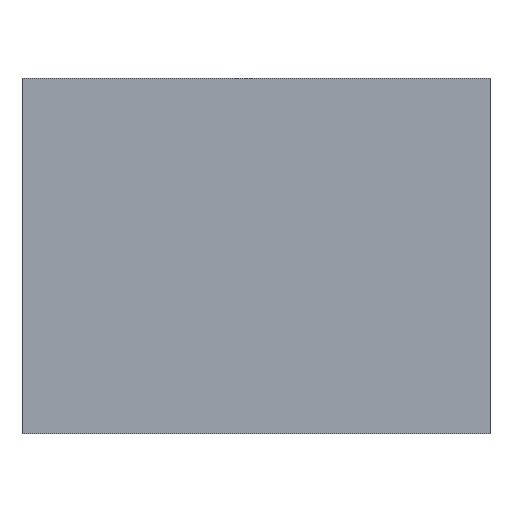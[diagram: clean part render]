
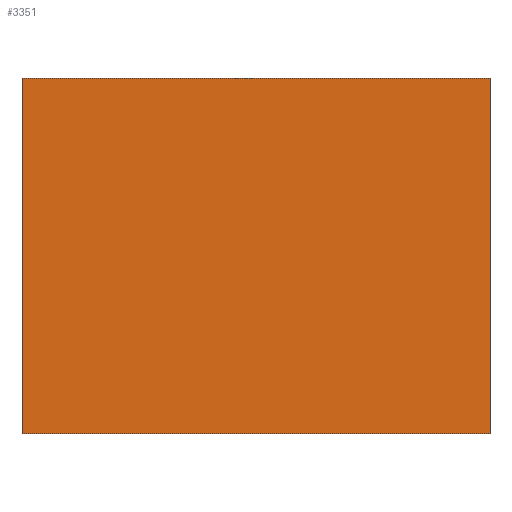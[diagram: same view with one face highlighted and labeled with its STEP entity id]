
A CAD part, top view. The second image highlights one B-rep face of the part: STEP entity #3351.
In plain terms, the highlighted planar face has unit normal (0, 0, 1).
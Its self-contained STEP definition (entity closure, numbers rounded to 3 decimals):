
#3215=CARTESIAN_POINT('Vertex',(104.,79.,28.)) ;
#3229=CARTESIAN_POINT('Vertex',(-104.,79.,28.)) ;
#3232=CARTESIAN_POINT('Line Origine',(0.,79.,28.)) ;
#3260=CARTESIAN_POINT('Vertex',(-104.,-79.,28.)) ;
#3263=CARTESIAN_POINT('Line Origine',(-104.,0.,28.)) ;
#3291=CARTESIAN_POINT('Vertex',(104.,-79.,28.)) ;
#3294=CARTESIAN_POINT('Line Origine',(0.,-79.,28.)) ;
#3316=CARTESIAN_POINT('Line Origine',(104.,0.,28.)) ;
#3340=CARTESIAN_POINT('Axis2P3D Location',(0.,0.,28.)) ;
#3233=DIRECTION('Vector Direction',(1.,0.,0.)) ;
#3264=DIRECTION('Vector Direction',(0.,1.,0.)) ;
#3295=DIRECTION('Vector Direction',(-1.,0.,0.)) ;
#3317=DIRECTION('Vector Direction',(0.,-1.,0.)) ;
#3341=DIRECTION('Axis2P3D Direction',(0.,0.,1.)) ;
#3342=DIRECTION('Axis2P3D XDirection',(1.,0.,0.)) ;
#3343=AXIS2_PLACEMENT_3D('Plane Axis2P3D',#3340,#3341,#3342) ;
#3346=ORIENTED_EDGE('',*,*,#3236,.T.) ;
#3347=ORIENTED_EDGE('',*,*,#3267,.T.) ;
#3348=ORIENTED_EDGE('',*,*,#3298,.T.) ;
#3349=ORIENTED_EDGE('',*,*,#3320,.T.) ;
#3234=VECTOR('Line Direction',#3233,1.) ;
#3265=VECTOR('Line Direction',#3264,1.) ;
#3296=VECTOR('Line Direction',#3295,1.) ;
#3318=VECTOR('Line Direction',#3317,1.) ;
#3351=ADVANCED_FACE('cavity',(#3350),#3344,.T.) ;
#3236=EDGE_CURVE('',#3216,#3230,#3235,.F.) ;
#3267=EDGE_CURVE('',#3230,#3261,#3266,.F.) ;
#3298=EDGE_CURVE('',#3261,#3292,#3297,.F.) ;
#3320=EDGE_CURVE('',#3292,#3216,#3319,.F.) ;
#3345=EDGE_LOOP('',(#3346,#3347,#3348,#3349)) ;
#3350=FACE_OUTER_BOUND('',#3345,.T.) ;
#3235=LINE('Line',#3232,#3234) ;
#3266=LINE('Line',#3263,#3265) ;
#3297=LINE('Line',#3294,#3296) ;
#3319=LINE('Line',#3316,#3318) ;
#3344=PLANE('Plane',#3343) ;
#3216=VERTEX_POINT('',#3215) ;
#3230=VERTEX_POINT('',#3229) ;
#3261=VERTEX_POINT('',#3260) ;
#3292=VERTEX_POINT('',#3291) ;
